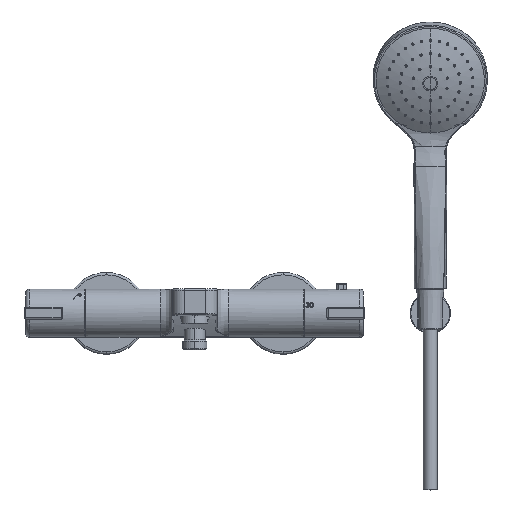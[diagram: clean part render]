
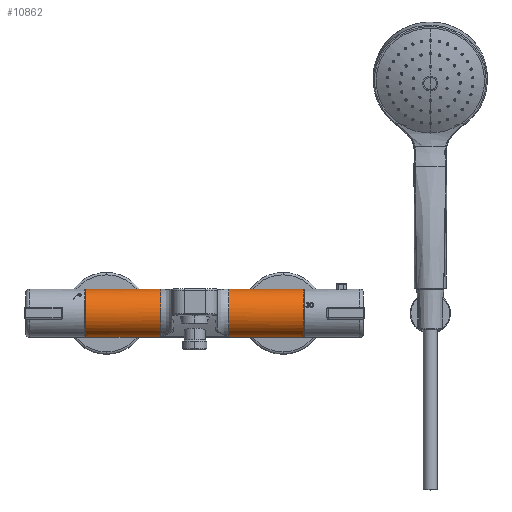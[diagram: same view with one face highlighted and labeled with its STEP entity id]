
A CAD part, top view. The second image highlights one B-rep face of the part: STEP entity #10862.
In plain terms, the highlighted cylindrical face has radius 20.5 mm (diameter 41 mm), a partial arc.
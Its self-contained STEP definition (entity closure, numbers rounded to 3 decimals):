
#195=CARTESIAN_POINT('',(29.,-19.835,5.179));
#197=DIRECTION('',(-1.,0.,0.));
#198=VECTOR('',#197,58.);
#199=CARTESIAN_POINT('',(29.,-19.835,5.179));
#200=LINE('',#199,#198);
#721=CARTESIAN_POINT('',(-29.,20.5,0.));
#723=DIRECTION('',(1.,0.,0.));
#724=VECTOR('',#723,58.);
#725=CARTESIAN_POINT('',(-29.,20.5,0.));
#726=LINE('',#725,#724);
#769=CARTESIAN_POINT('',(29.,0.,0.));
#770=DIRECTION('',(-1.,0.,0.));
#771=DIRECTION('',(0.,-0.968,0.253));
#772=AXIS2_PLACEMENT_3D('',#769,#770,#771);
#774=CARTESIAN_POINT('',(-29.,0.,0.));
#775=DIRECTION('',(1.,0.,0.));
#776=DIRECTION('',(0.,1.,0.));
#777=AXIS2_PLACEMENT_3D('',#774,#775,#776);
#783=DIRECTION('',(1.,0.,0.));
#784=VECTOR('',#783,185.);
#785=CARTESIAN_POINT('',(-92.5,-19.733,-5.554));
#786=LINE('',#785,#784);
#806=CARTESIAN_POINT('',(92.5,0.,0.));
#807=DIRECTION('',(-1.,0.,0.));
#808=DIRECTION('',(0.,-0.963,-0.271));
#809=AXIS2_PLACEMENT_3D('',#806,#807,#808);
#836=CARTESIAN_POINT('',(-92.5,0.,0.));
#837=DIRECTION('',(1.,0.,0.));
#838=DIRECTION('',(0.,0.963,-0.271));
#839=AXIS2_PLACEMENT_3D('',#836,#837,#838);
#869=DIRECTION('',(-1.,0.,0.));
#870=VECTOR('',#869,185.);
#871=CARTESIAN_POINT('',(92.5,19.733,-5.554));
#872=LINE('',#871,#870);
#8078=CARTESIAN_POINT('',(29.,20.5,0.));
#8135=CARTESIAN_POINT('',(-29.,-19.835,
5.179));
#8603=CARTESIAN_POINT('',(92.5,-19.733,-5.554));
#8604=CARTESIAN_POINT('',(92.5,19.733,-5.554));
#8605=VERTEX_POINT('',#8603);
#8606=VERTEX_POINT('',#8604);
#8607=CARTESIAN_POINT('',(-92.5,19.733,-5.554));
#8608=CARTESIAN_POINT('',(-92.5,-19.733,-5.554));
#8609=VERTEX_POINT('',#8607);
#8610=VERTEX_POINT('',#8608);
#8787=VERTEX_POINT('',#721);
#8809=VERTEX_POINT('',#8078);
#8811=VERTEX_POINT('',#195);
#8829=VERTEX_POINT('',#8135);
#10839=CARTESIAN_POINT('',(92.5,0.,0.));
#10840=DIRECTION('',(-1.,0.,0.));
#10841=DIRECTION('',(0.,0.,1.));
#10842=AXIS2_PLACEMENT_3D('',#10839,#10840,#10841);
#10843=CYLINDRICAL_SURFACE('',#10842,20.5);
#10845=ORIENTED_EDGE('',*,*,#10844,.F.);
#10847=ORIENTED_EDGE('',*,*,#10846,.F.);
#10849=ORIENTED_EDGE('',*,*,#10848,.F.);
#10851=ORIENTED_EDGE('',*,*,#10850,.F.);
#10852=EDGE_LOOP('',(#10845,#10847,#10849,#10851));
#10853=FACE_OUTER_BOUND('',#10852,.F.);
#10855=ORIENTED_EDGE('',*,*,#10854,.T.);
#10856=ORIENTED_EDGE('',*,*,#10827,.F.);
#10858=ORIENTED_EDGE('',*,*,#10857,.T.);
#10859=ORIENTED_EDGE('',*,*,#10343,.F.);
#10860=EDGE_LOOP('',(#10855,#10856,#10858,#10859));
#10861=FACE_BOUND('',#10860,.F.);
#10862=ADVANCED_FACE('',(#10853,#10861),#10843,.T.);
#773=CIRCLE('',#772,20.5);
#778=CIRCLE('',#777,20.5);
#810=CIRCLE('',#809,20.5);
#840=CIRCLE('',#839,20.5);
#10343=EDGE_CURVE('',#8811,#8829,#200,.T.);
#10827=EDGE_CURVE('',#8787,#8809,#726,.T.);
#10844=EDGE_CURVE('',#8610,#8605,#786,.T.);
#10846=EDGE_CURVE('',#8609,#8610,#840,.T.);
#10848=EDGE_CURVE('',#8606,#8609,#872,.T.);
#10850=EDGE_CURVE('',#8605,#8606,#810,.T.);
#10854=EDGE_CURVE('',#8811,#8809,#773,.T.);
#10857=EDGE_CURVE('',#8787,#8829,#778,.T.);
